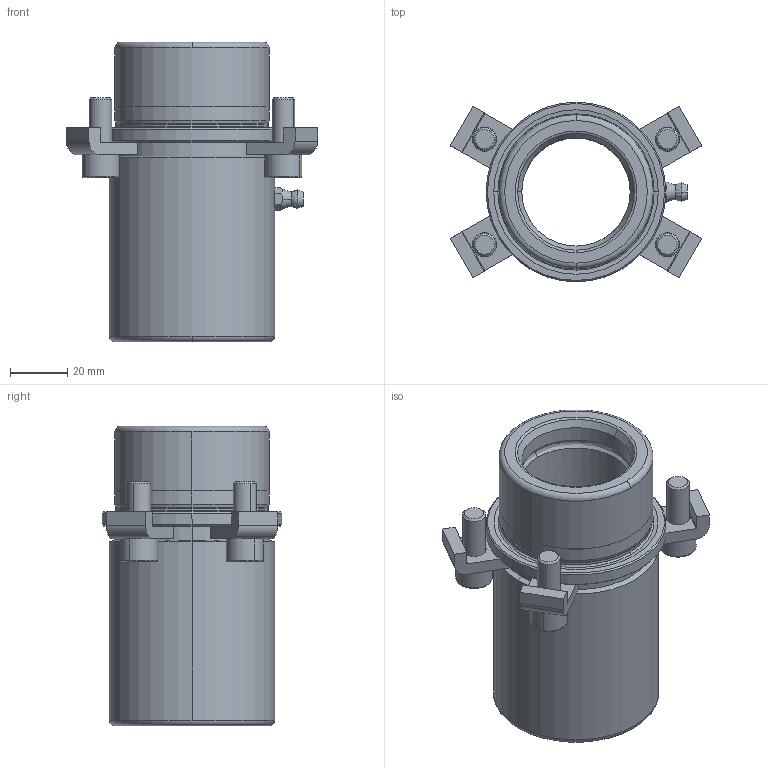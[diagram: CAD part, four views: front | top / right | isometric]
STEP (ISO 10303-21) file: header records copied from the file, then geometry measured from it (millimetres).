
FILE_DESCRIPTION((''),'2;1');
FILE_NAME('B10_038_075.stp','2008-11-06T08:53:28',(''),(''),'Mechanical Desktop 2009','Mechanical Desktop 2009',', , ');
FILE_SCHEMA(('CONFIG_CONTROL_DESIGN'));
Length unit declared in the file: millimetre
Products named in the file (2): Product; blmdl1
Assembly tree (1 placements, depth 2):
  Product
    blmdl1
Bounding box: 88.14 x 63 x 105 mm (x, y, z)
Volume: 159862.3 mm3; surface area: 44985 mm2
Topology: 10 solids, 10 shells, 210 faces, 529 edges, 348 vertices
Faces by surface type: plane 90, cylinder 60, cone 24, bspline 18, torus 18
Entity records: 7642 total; most frequent: CARTESIAN_POINT 2348, DIRECTION 1151, ORIENTED_EDGE 1050, EDGE_CURVE 525, AXIS2_PLACEMENT_3D 449, VERTEX_POINT 346, CIRCLE 255, VECTOR 253
